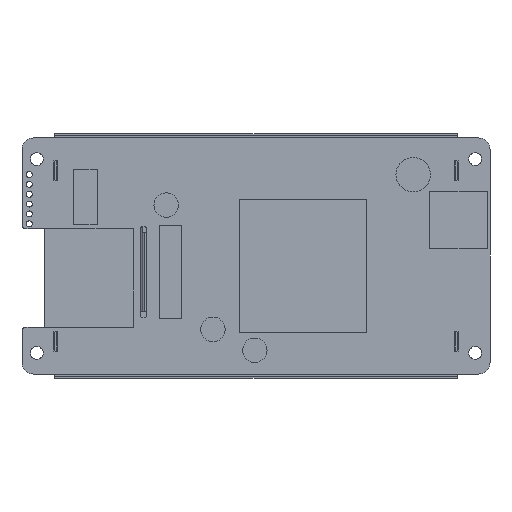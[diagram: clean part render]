
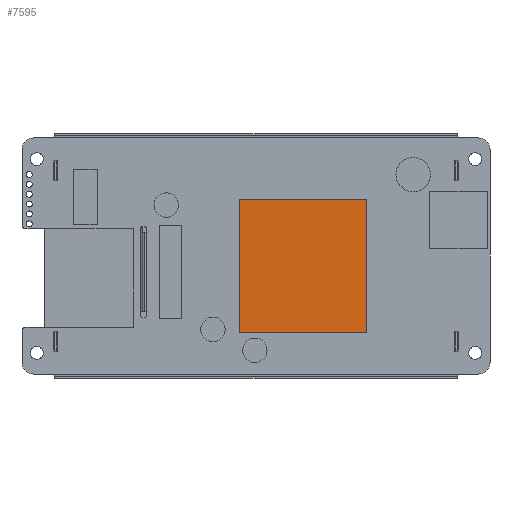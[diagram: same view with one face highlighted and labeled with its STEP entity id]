
A CAD part, front view. The second image highlights one B-rep face of the part: STEP entity #7595.
In plain terms, the highlighted planar face has unit normal (0, -1, 0) as drawn and (0, 0, 1) by its records, which use the part's own axes.
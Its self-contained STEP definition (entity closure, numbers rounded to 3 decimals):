
#5592=DIRECTION('',(1.,0.,0.));
#5593=VECTOR('',#5592,32.766);
#5594=CARTESIAN_POINT('',(56.225,10.78,5.2));
#5595=LINE('',#5594,#5593);
#5596=DIRECTION('',(0.,-1.,0.));
#5597=VECTOR('',#5596,34.417);
#5598=CARTESIAN_POINT('',(56.225,45.197,5.2));
#5599=LINE('',#5598,#5597);
#5600=DIRECTION('',(-1.,0.,0.));
#5601=VECTOR('',#5600,32.766);
#5602=CARTESIAN_POINT('',(88.991,45.197,5.2));
#5603=LINE('',#5602,#5601);
#5604=DIRECTION('',(0.,1.,0.));
#5605=VECTOR('',#5604,34.417);
#5606=CARTESIAN_POINT('',(88.991,10.78,5.2));
#5607=LINE('',#5606,#5605);
#5874=CARTESIAN_POINT('',(56.225,10.78,5.2));
#5875=CARTESIAN_POINT('',(88.991,10.78,5.2));
#5876=VERTEX_POINT('',#5874);
#5877=VERTEX_POINT('',#5875);
#5878=CARTESIAN_POINT('',(88.991,45.197,5.2));
#5879=VERTEX_POINT('',#5878);
#5880=CARTESIAN_POINT('',(56.225,45.197,5.2));
#5881=VERTEX_POINT('',#5880);
#7584=CARTESIAN_POINT('',(0.,0.,5.2));
#7585=DIRECTION('',(0.,0.,1.));
#7586=DIRECTION('',(1.,0.,0.));
#7587=AXIS2_PLACEMENT_3D('',#7584,#7585,#7586);
#7588=PLANE('',#7587);
#7589=ORIENTED_EDGE('',*,*,#7536,.F.);
#7590=ORIENTED_EDGE('',*,*,#7551,.F.);
#7591=ORIENTED_EDGE('',*,*,#7565,.F.);
#7592=ORIENTED_EDGE('',*,*,#7578,.F.);
#7593=EDGE_LOOP('',(#7589,#7590,#7591,#7592));
#7594=FACE_OUTER_BOUND('',#7593,.F.);
#7536=EDGE_CURVE('',#5876,#5877,#5595,.T.);
#7551=EDGE_CURVE('',#5881,#5876,#5599,.T.);
#7565=EDGE_CURVE('',#5879,#5881,#5603,.T.);
#7578=EDGE_CURVE('',#5877,#5879,#5607,.T.);
#7595=ADVANCED_FACE('',(#7594),#7588,.T.);
